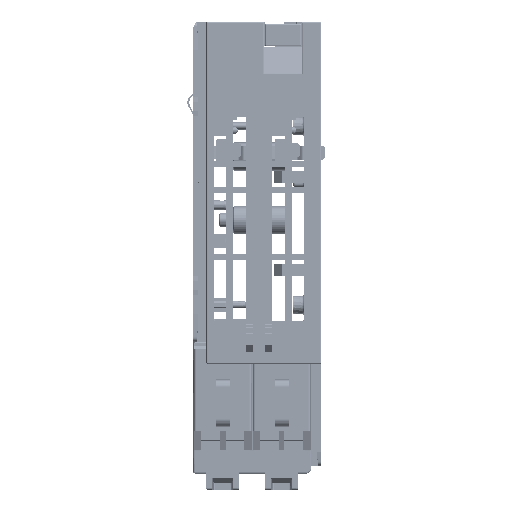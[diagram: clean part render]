
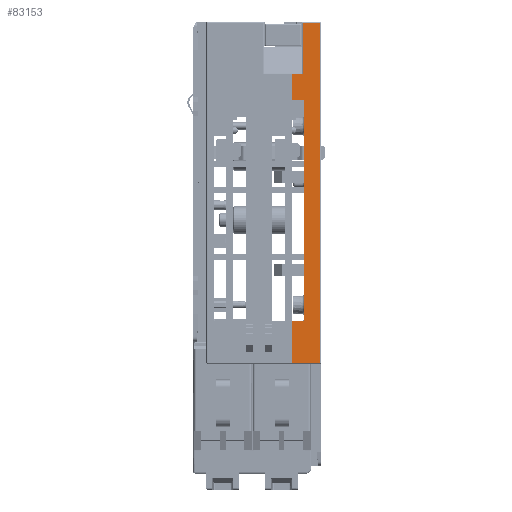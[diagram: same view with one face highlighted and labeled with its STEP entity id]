
A CAD part, left-side view. The second image highlights one B-rep face of the part: STEP entity #83153.
In plain terms, the highlighted planar face has unit normal (-1, 0, 0).
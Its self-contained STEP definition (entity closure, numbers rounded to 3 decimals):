
#2757 = VERTEX_POINT ( 'NONE', #169606 ) ;
#3575 = DIRECTION ( 'NONE',  ( 0., 0., 1. ) ) ;
#8262 = LINE ( 'NONE', #182312, #46271 ) ;
#10979 = VECTOR ( 'NONE', #96219, 1000. ) ;
#14528 = EDGE_CURVE ( 'NONE', #56946, #31215, #141617, .T. ) ;
#19519 = CARTESIAN_POINT ( 'NONE',  ( -52.5, -1.9, -23.2 ) ) ;
#24253 = LINE ( 'NONE', #134206, #87599 ) ;
#26260 = ORIENTED_EDGE ( 'NONE', *, *, #156478, .T. ) ;
#30798 = CARTESIAN_POINT ( 'NONE',  ( -52.5, 4., -23.2 ) ) ;
#31215 = VERTEX_POINT ( 'NONE', #201283 ) ;
#31913 = DIRECTION ( 'NONE',  ( 0., 0., 1. ) ) ;
#32218 = EDGE_LOOP ( 'NONE', ( #143383, #104023, #142897, #162280, #179529, #179928, #149918, #39087, #114398, #26260 ) ) ;
#35555 = VECTOR ( 'NONE', #212196, 1000. ) ;
#37741 = CARTESIAN_POINT ( 'NONE',  ( -52.5, 0., -43.9 ) ) ;
#39087 = ORIENTED_EDGE ( 'NONE', *, *, #89759, .F. ) ;
#44791 = VERTEX_POINT ( 'NONE', #108532 ) ;
#46271 = VECTOR ( 'NONE', #216453, 1000. ) ;
#48200 = LINE ( 'NONE', #80069, #67950 ) ;
#48896 = EDGE_CURVE ( 'NONE', #162708, #65175, #69396, .T. ) ;
#49961 = VERTEX_POINT ( 'NONE', #223055 ) ;
#53138 = CARTESIAN_POINT ( 'NONE',  ( -52.5, 4., 32.7 ) ) ;
#55427 = LINE ( 'NONE', #56544, #120733 ) ;
#56544 = CARTESIAN_POINT ( 'NONE',  ( -52.5, 4., -14.4 ) ) ;
#56946 = VERTEX_POINT ( 'NONE', #53138 ) ;
#65175 = VERTEX_POINT ( 'NONE', #169023 ) ;
#67950 = VECTOR ( 'NONE', #134637, 1000. ) ;
#69396 = LINE ( 'NONE', #30798, #84468 ) ;
#70733 = FACE_OUTER_BOUND ( 'NONE', #32218, .T. ) ;
#72236 = CARTESIAN_POINT ( 'NONE',  ( -52.5, 4., 32.7 ) ) ;
#75550 = VERTEX_POINT ( 'NONE', #215962 ) ;
#76191 = VECTOR ( 'NONE', #140493, 1000. ) ;
#76576 = EDGE_CURVE ( 'NONE', #49961, #56946, #48200, .T. ) ;
#80069 = CARTESIAN_POINT ( 'NONE',  ( -52.5, 4., 38.122 ) ) ;
#83153 = ADVANCED_FACE ( 'NONE', ( #70733 ), #121894, .T. ) ;
#84468 = VECTOR ( 'NONE', #31913, 1000. ) ;
#87388 = DIRECTION ( 'NONE',  ( 0., 0., -1. ) ) ;
#87599 = VECTOR ( 'NONE', #168392, 1000. ) ;
#88884 = DIRECTION ( 'NONE',  ( -1., 0., 0. ) ) ;
#89605 = LINE ( 'NONE', #211406, #122444 ) ;
#89759 = EDGE_CURVE ( 'NONE', #65175, #139514, #55427, .T. ) ;
#96219 = DIRECTION ( 'NONE',  ( 0., -1., 0. ) ) ;
#104023 = ORIENTED_EDGE ( 'NONE', *, *, #117465, .F. ) ;
#106386 = LINE ( 'NONE', #142784, #35555 ) ;
#108532 = CARTESIAN_POINT ( 'NONE',  ( -52.5, 1.7, 38.122 ) ) ;
#109307 = AXIS2_PLACEMENT_3D ( 'NONE', #37741, #88884, #3575 ) ;
#114398 = ORIENTED_EDGE ( 'NONE', *, *, #48896, .F. ) ;
#117465 = EDGE_CURVE ( 'NONE', #75550, #2757, #24253, .T. ) ;
#120733 = VECTOR ( 'NONE', #125906, 1000. ) ;
#121894 = PLANE ( 'NONE',  #109307 ) ;
#122444 = VECTOR ( 'NONE', #87388, 1000. ) ;
#125906 = DIRECTION ( 'NONE',  ( 0., -1., 0. ) ) ;
#128094 = EDGE_CURVE ( 'NONE', #31215, #139514, #89605, .T. ) ;
#129241 = CARTESIAN_POINT ( 'NONE',  ( -52.5, 4., -23.2 ) ) ;
#134206 = CARTESIAN_POINT ( 'NONE',  ( -52.5, 1.7, 48.9 ) ) ;
#134637 = DIRECTION ( 'NONE',  ( 0., 0., -1. ) ) ;
#138368 = CARTESIAN_POINT ( 'NONE',  ( -52.5, 1.7, 38.122 ) ) ;
#139514 = VERTEX_POINT ( 'NONE', #156226 ) ;
#140493 = DIRECTION ( 'NONE',  ( 0., -1., 0. ) ) ;
#141617 = LINE ( 'NONE', #72236, #76191 ) ;
#142784 = CARTESIAN_POINT ( 'NONE',  ( -52.5, -1.9, 48.9 ) ) ;
#142897 = ORIENTED_EDGE ( 'NONE', *, *, #203108, .F. ) ;
#143383 = ORIENTED_EDGE ( 'NONE', *, *, #171653, .F. ) ;
#149707 = LINE ( 'NONE', #129241, #10979 ) ;
#149918 = ORIENTED_EDGE ( 'NONE', *, *, #128094, .T. ) ;
#150611 = EDGE_CURVE ( 'NONE', #44791, #49961, #8262, .T. ) ;
#151140 = CARTESIAN_POINT ( 'NONE',  ( -52.5, 4., -23.2 ) ) ;
#156226 = CARTESIAN_POINT ( 'NONE',  ( -52.5, 1.4, -14.4 ) ) ;
#156478 = EDGE_CURVE ( 'NONE', #162708, #214714, #149707, .T. ) ;
#161903 = DIRECTION ( 'NONE',  ( 0., 0., 1. ) ) ;
#162280 = ORIENTED_EDGE ( 'NONE', *, *, #150611, .T. ) ;
#162708 = VERTEX_POINT ( 'NONE', #151140 ) ;
#165242 = VECTOR ( 'NONE', #161903, 1000. ) ;
#168392 = DIRECTION ( 'NONE',  ( 0., -1., 0. ) ) ;
#169023 = CARTESIAN_POINT ( 'NONE',  ( -52.5, 4., -14.4 ) ) ;
#169606 = CARTESIAN_POINT ( 'NONE',  ( -52.5, -1.9, 48.9 ) ) ;
#171653 = EDGE_CURVE ( 'NONE', #2757, #214714, #106386, .T. ) ;
#179529 = ORIENTED_EDGE ( 'NONE', *, *, #76576, .T. ) ;
#179928 = ORIENTED_EDGE ( 'NONE', *, *, #14528, .T. ) ;
#182312 = CARTESIAN_POINT ( 'NONE',  ( -52.5, 1.7, 38.122 ) ) ;
#201283 = CARTESIAN_POINT ( 'NONE',  ( -52.5, 1.4, 32.7 ) ) ;
#203108 = EDGE_CURVE ( 'NONE', #44791, #75550, #224856, .T. ) ;
#211406 = CARTESIAN_POINT ( 'NONE',  ( -52.5, 1.4, 32.7 ) ) ;
#212196 = DIRECTION ( 'NONE',  ( 0., 0., -1. ) ) ;
#214714 = VERTEX_POINT ( 'NONE', #19519 ) ;
#215962 = CARTESIAN_POINT ( 'NONE',  ( -52.5, 1.7, 48.9 ) ) ;
#216453 = DIRECTION ( 'NONE',  ( 0., 1., 0. ) ) ;
#223055 = CARTESIAN_POINT ( 'NONE',  ( -52.5, 4., 38.122 ) ) ;
#224856 = LINE ( 'NONE', #138368, #165242 ) ;
